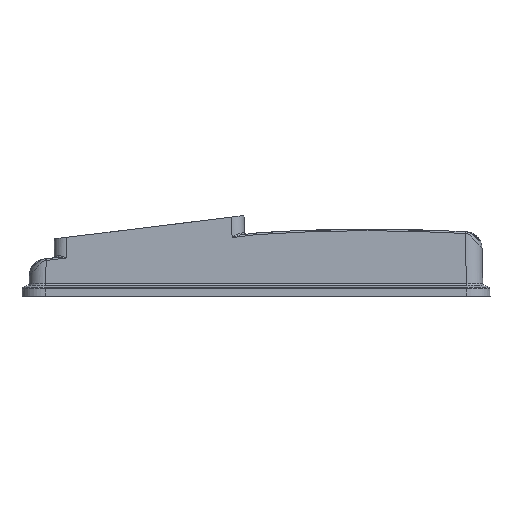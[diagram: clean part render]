
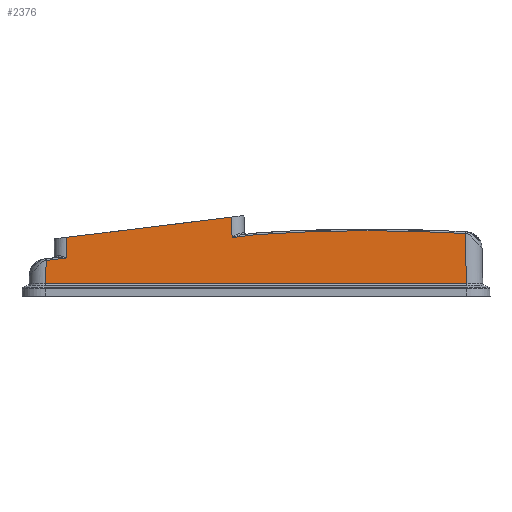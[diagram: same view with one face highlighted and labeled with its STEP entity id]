
A CAD part, left-side view. The second image highlights one B-rep face of the part: STEP entity #2376.
In plain terms, the highlighted planar face has unit normal (-1, 0, 0.018).
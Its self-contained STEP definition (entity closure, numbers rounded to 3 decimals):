
#737=PLANE('',#17230);
#893=ELLIPSE('',#17118,999.152,999.);
#918=ELLIPSE('',#17229,9.001,9.);
#2376=ADVANCED_FACE('',(#3358),#737,.F.);
#3358=FACE_OUTER_BOUND('',#4085,.T.);
#4085=EDGE_LOOP('',(#7633,#7634,#7635,#7636,#7637,#7638,#7639,#7640,#7641,
#7642));
#4805=LINE('',#24724,#5916);
#4807=LINE('',#24780,#5918);
#4809=LINE('',#24807,#5920);
#4883=LINE('',#27366,#5994);
#4888=LINE('',#27386,#5999);
#4889=LINE('',#27388,#6000);
#4890=LINE('',#27389,#6001);
#4891=LINE('',#27391,#6002);
#5916=VECTOR('',#19224,1.);
#5918=VECTOR('',#19236,1.);
#5920=VECTOR('',#19248,1.);
#5994=VECTOR('',#19600,1.);
#5999=VECTOR('',#19617,1.);
#6000=VECTOR('',#19618,1.);
#6001=VECTOR('',#19619,1.);
#6002=VECTOR('',#19620,1.);
#7633=ORIENTED_EDGE('',*,*,#13408,.F.);
#7634=ORIENTED_EDGE('',*,*,#13472,.F.);
#7635=ORIENTED_EDGE('',*,*,#13681,.T.);
#7636=ORIENTED_EDGE('',*,*,#13682,.F.);
#7637=ORIENTED_EDGE('',*,*,#13683,.T.);
#7638=ORIENTED_EDGE('',*,*,#13672,.T.);
#7639=ORIENTED_EDGE('',*,*,#13684,.F.);
#7640=ORIENTED_EDGE('',*,*,#13685,.F.);
#7641=ORIENTED_EDGE('',*,*,#13417,.F.);
#7642=ORIENTED_EDGE('',*,*,#13423,.T.);
#11171=VERTEX_POINT('',#24723);
#11172=VERTEX_POINT('',#24725);
#11175=VERTEX_POINT('',#24765);
#11180=VERTEX_POINT('',#24779);
#11218=VERTEX_POINT('',#25075);
#11375=VERTEX_POINT('',#27352);
#11382=VERTEX_POINT('',#27365);
#11391=VERTEX_POINT('',#27385);
#11392=VERTEX_POINT('',#27387);
#11393=VERTEX_POINT('',#27390);
#13408=EDGE_CURVE('',#11171,#11172,#4805,.T.);
#13417=EDGE_CURVE('',#11180,#11175,#4807,.T.);
#13423=EDGE_CURVE('',#11180,#11172,#4809,.T.);
#13472=EDGE_CURVE('',#11218,#11171,#893,.T.);
#13672=EDGE_CURVE('',#11375,#11382,#4883,.T.);
#13681=EDGE_CURVE('',#11218,#11391,#918,.T.);
#13682=EDGE_CURVE('',#11392,#11391,#4888,.T.);
#13683=EDGE_CURVE('',#11392,#11375,#4889,.T.);
#13684=EDGE_CURVE('',#11393,#11382,#4890,.T.);
#13685=EDGE_CURVE('',#11175,#11393,#4891,.T.);
#17118=AXIS2_PLACEMENT_3D('',#25074,#19333,#19334);
#17229=AXIS2_PLACEMENT_3D('',#27384,#19615,#19616);
#17230=AXIS2_PLACEMENT_3D('',#27392,#19621,#19622);
#19224=DIRECTION('',(-0.017,-0.017,-1.));
#19236=DIRECTION('',(0.017,-0.017,1.));
#19248=DIRECTION('',(0.,-1.,0.));
#19333=DIRECTION('',(1.,0.,-0.017));
#19334=DIRECTION('',(0.017,0.,1.));
#19600=DIRECTION('',(-0.002,0.993,-0.122));
#19615=DIRECTION('',(-1.,0.,0.017));
#19616=DIRECTION('',(0.017,0.,1.));
#19617=DIRECTION('',(0.002,-0.993,0.122));
#19618=DIRECTION('',(0.017,0.017,1.));
#19619=DIRECTION('',(0.017,-0.017,1.));
#19620=DIRECTION('',(0.002,-0.993,0.122));
#19621=DIRECTION('',(1.,0.,-0.017));
#19622=DIRECTION('',(-0.017,0.,-1.));
#24723=CARTESIAN_POINT('',(-112.531,-127.533,38.307));
#24724=CARTESIAN_POINT('',(-113.066,-128.068,7.675));
#24725=CARTESIAN_POINT('',(-113.066,-128.068,7.675));
#24765=CARTESIAN_POINT('',(-112.817,127.819,21.926));
#24779=CARTESIAN_POINT('',(-113.066,128.068,7.675));
#24780=CARTESIAN_POINT('',(-112.817,127.819,21.926));
#24807=CARTESIAN_POINT('',(-113.066,-128.068,7.675));
#25074=CARTESIAN_POINT('',(-129.939,-69.1,-958.983));
#25075=CARTESIAN_POINT('',(-112.543,-0.335,37.648));
#27352=CARTESIAN_POINT('',(-112.357,14.803,48.303));
#27365=CARTESIAN_POINT('',(-112.572,115.238,35.971));
#27366=CARTESIAN_POINT('',(-112.066,-121.039,64.983));
#27384=CARTESIAN_POINT('',(-112.7,-0.955,28.669));
#27385=CARTESIAN_POINT('',(-112.544,0.142,37.602));
#27386=CARTESIAN_POINT('',(-112.544,0.142,37.602));
#27387=CARTESIAN_POINT('',(-112.575,14.585,35.829));
#27388=CARTESIAN_POINT('',(-112.418,14.742,44.823));
#27389=CARTESIAN_POINT('',(-112.992,115.658,11.917));
#27390=CARTESIAN_POINT('',(-112.791,115.457,23.443));
#27391=CARTESIAN_POINT('',(-112.791,115.457,23.443));
#27392=CARTESIAN_POINT('',(-113.066,-128.079,7.664));
